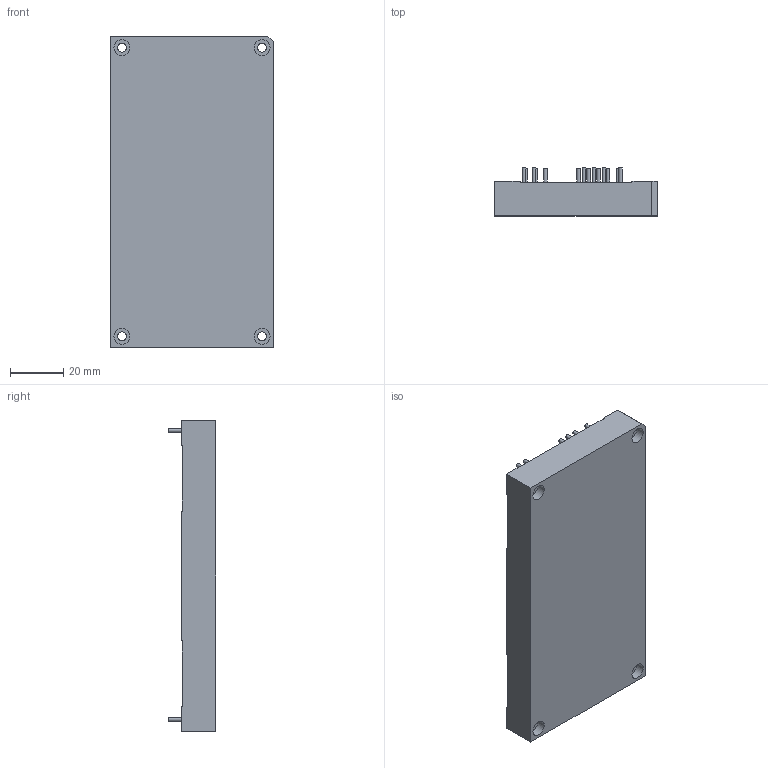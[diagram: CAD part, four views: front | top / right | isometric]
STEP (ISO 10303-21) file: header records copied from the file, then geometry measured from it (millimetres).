
FILE_DESCRIPTION(/* description */ (''),/* implementation_level */ '2;1');
FILE_NAME(/* name */ '',/* author */ (''),/* organization */ (''),/* preprocessor_version */ 'ST-DEVELOPER v18.1',/* originating_system */ '',/* authorisation */ '');
FILE_SCHEMA (('AUTOMOTIVE_DESIGN { 1 0 10303 214 3 1 1 }'));
Length unit declared in the file: millimetre
Products named in the file (1): JETDi600R_R6_case_pins
Bounding box: 61 x 17.85 x 116.8 mm (x, y, z)
Volume: 87292 mm3; surface area: 19899.7 mm2
Topology: 1 solids, 1 shells, 103 faces, 229 edges, 150 vertices
Faces by surface type: plane 65, cylinder 38
Full cylindrical faces by diameter (mm): 1.4 x14, 3.4 x4, 6 x8
Entity records: 3032 total; most frequent: DIRECTION 513, CARTESIAN_POINT 483, ORIENTED_EDGE 458, EDGE_CURVE 229, AXIS2_PLACEMENT_3D 180, LINE 153, VECTOR 153, VERTEX_POINT 150
